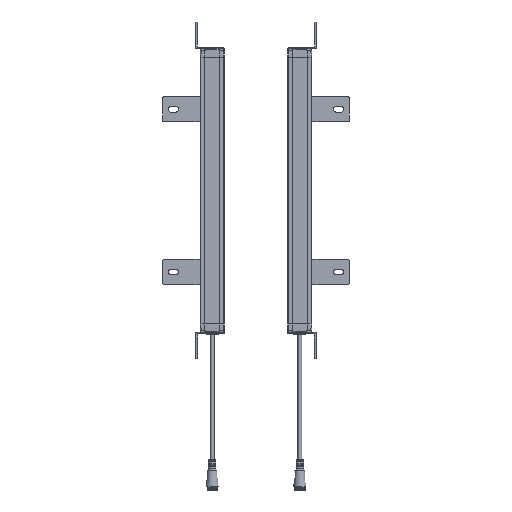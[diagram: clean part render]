
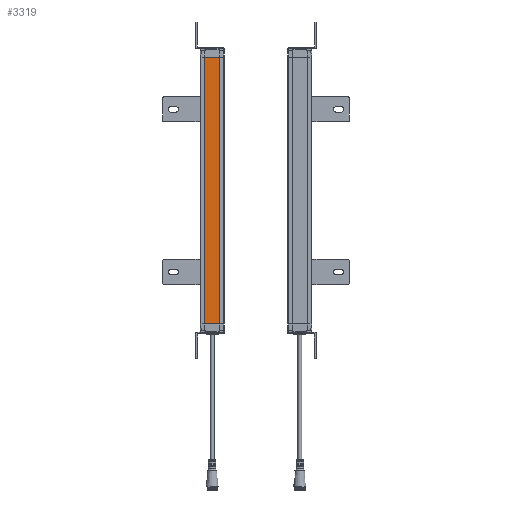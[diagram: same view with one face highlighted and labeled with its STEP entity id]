
A CAD part, left-side view. The second image highlights one B-rep face of the part: STEP entity #3319.
In plain terms, the highlighted planar face has unit normal (-1, 0, 0).
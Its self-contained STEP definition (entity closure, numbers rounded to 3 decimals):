
#1795=FACE_OUTER_BOUND('',#5986,.T.);
#3319=ADVANCED_FACE('',(#1795),#4749,.T.);
#4749=PLANE('',#29857);
#5986=EDGE_LOOP('',(#9184,#9185,#9186,#9187));
#9184=ORIENTED_EDGE('',*,*,#19383,.F.);
#9185=ORIENTED_EDGE('',*,*,#19072,.T.);
#9186=ORIENTED_EDGE('',*,*,#19385,.T.);
#9187=ORIENTED_EDGE('',*,*,#19386,.F.);
#16145=VERTEX_POINT('',#43699);
#16146=VERTEX_POINT('',#43701);
#16357=VERTEX_POINT('',#44323);
#16358=VERTEX_POINT('',#44327);
#19072=EDGE_CURVE('',#16146,#16145,#24663,.T.);
#19383=EDGE_CURVE('',#16146,#16357,#24884,.T.);
#19385=EDGE_CURVE('',#16145,#16358,#24886,.T.);
#19386=EDGE_CURVE('',#16357,#16358,#24887,.T.);
#24663=LINE('',#43700,#27142);
#24884=LINE('',#44322,#27363);
#24886=LINE('',#44326,#27365);
#24887=LINE('',#44328,#27366);
#27142=VECTOR('',#33404,1.);
#27363=VECTOR('',#34005,1.);
#27365=VECTOR('',#34009,1.);
#27366=VECTOR('',#34010,1.);
#29857=AXIS2_PLACEMENT_3D('',#44329,#34011,#34012);
#33404=DIRECTION('',(0.,1.,0.));
#34005=DIRECTION('',(0.,0.,-1.));
#34009=DIRECTION('',(0.,0.,-1.));
#34010=DIRECTION('',(0.,1.,0.));
#34011=DIRECTION('',(-1.,0.,0.));
#34012=DIRECTION('',(0.,-1.,0.));
#43699=CARTESIAN_POINT('',(50.4,-5.5,278.059));
#43700=CARTESIAN_POINT('',(50.4,-5.5,278.059));
#43701=CARTESIAN_POINT('',(50.4,-23.5,278.059));
#44322=CARTESIAN_POINT('',(50.4,-23.5,103.059));
#44323=CARTESIAN_POINT('',(50.4,-23.5,-41.941));
#44326=CARTESIAN_POINT('',(50.4,-5.5,103.059));
#44327=CARTESIAN_POINT('',(50.4,-5.5,-41.941));
#44328=CARTESIAN_POINT('',(50.4,-23.5,-41.941));
#44329=CARTESIAN_POINT('',(50.4,-5.5,-61.941));
